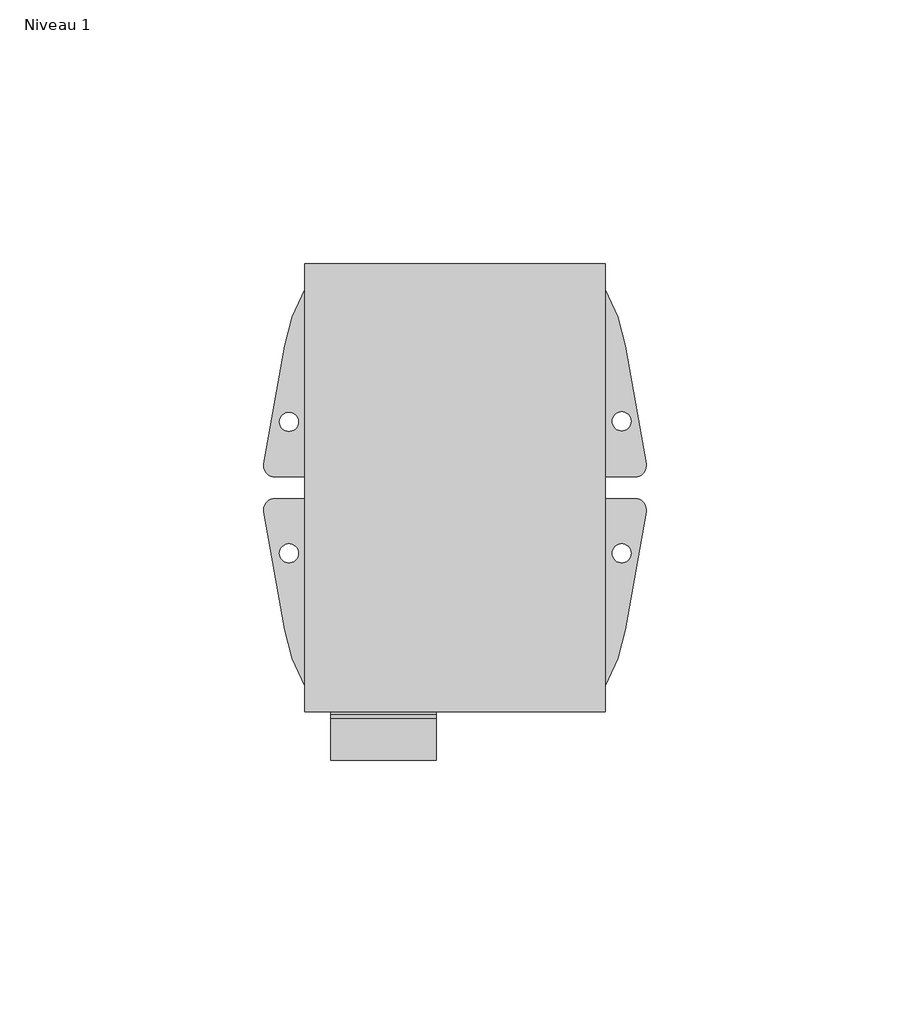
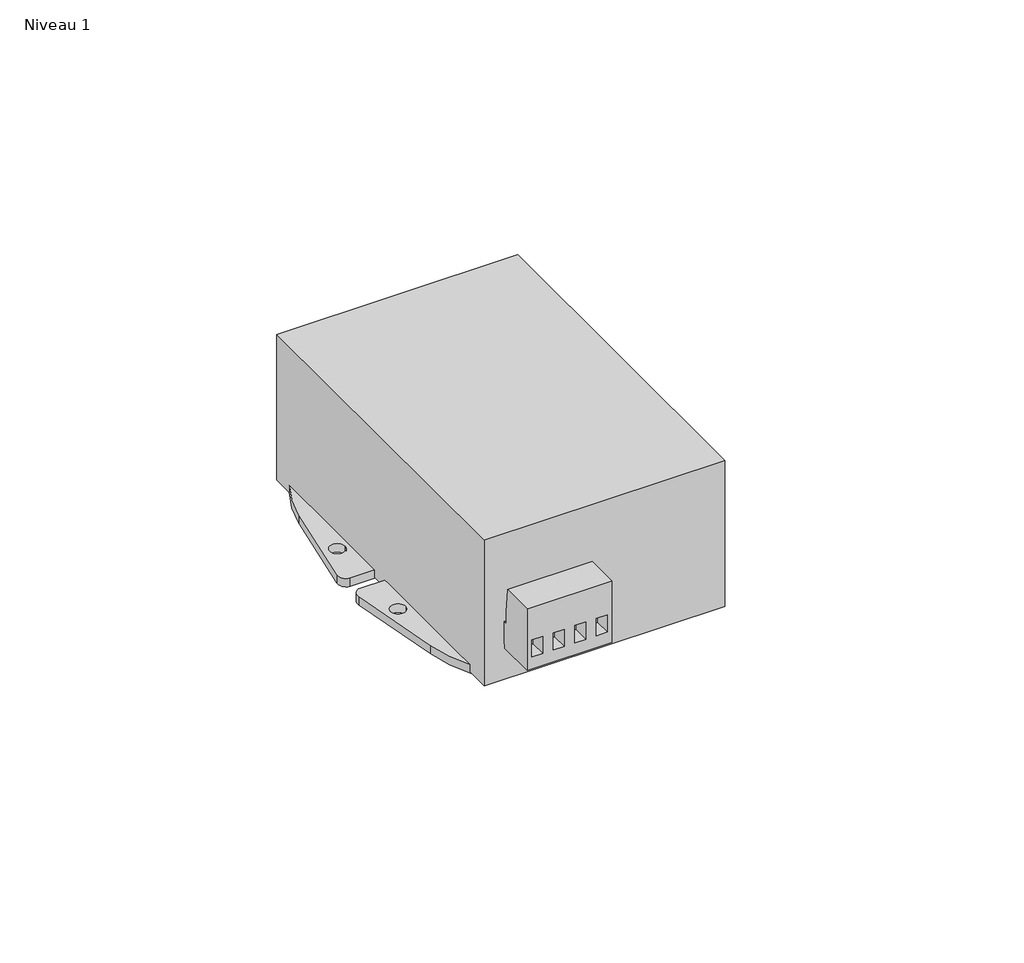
# One storey: 1 proxy.
"""IFC4 building model written with IfcOpenShell, lengths in millimetres."""

from ifc_helpers import new_model, si_unit, origin, place, context, project, spatial, transform, mapped, element, save
from components import electrical_equipment_dab1845e

model = new_model("IFC4")

# Units and contexts
model_context = context("Model", 3, world=origin())
ifc_project = project(units=[si_unit("LENGTHUNIT", "METRE", prefix="MILLI")], contexts=[model_context])

# Site, building, storey
site = spatial("IfcSite", under=ifc_project)
building = spatial("IfcBuilding", under=site)
storey = spatial("IfcBuildingStorey", under=building, Name="Niveau 1", Elevation=0.0)

# Proxy
placement = place(None, origin())
electrical_equipment_shape = electrical_equipment_dab1845e(model_context)
element("IfcBuildingElementProxy", 1, Name="A KIT POE 802 3AF MIT-14D : A KIT POE 802 3AF MIT-14D", ObjectType="A KIT POE 802 3AF MIT-14D : A KIT POE 802 3AF MIT-14D", at=placement, inside=storey, context=model_context, shape_type="MappedRepresentation", body=[
    mapped(electrical_equipment_shape, transform((-5950.3394081, 6392.7945573, 0.0), x_axis=(1.0, 0.0, 0.0), y_axis=(0.0, 1.0, 0.0), z_axis=(0.0, 0.0, 1.0))),
])

save(model, "model.ifc")
